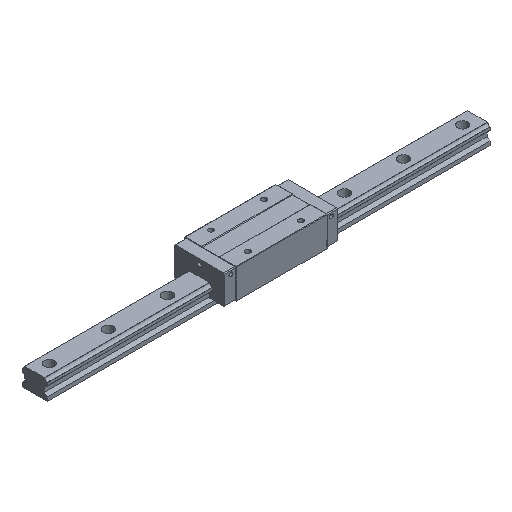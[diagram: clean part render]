
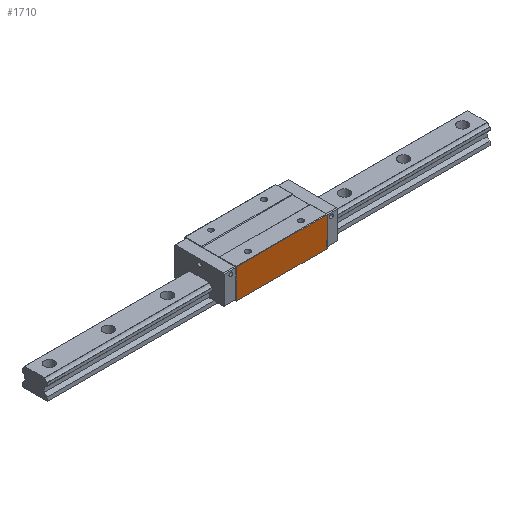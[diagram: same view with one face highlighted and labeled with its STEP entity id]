
A CAD part, isometric view. The second image highlights one B-rep face of the part: STEP entity #1710.
In plain terms, the highlighted planar face has unit normal (0, -1, 0).
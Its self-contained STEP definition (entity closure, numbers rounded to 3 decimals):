
#95 = LINE ( 'NONE', #4801, #1401 ) ;
#149 = CARTESIAN_POINT ( 'NONE',  ( 61.5, -35., 7.5 ) ) ;
#497 = ORIENTED_EDGE ( 'NONE', *, *, #5022, .T. ) ;
#533 = CARTESIAN_POINT ( 'NONE',  ( 61.5, -35., 48. ) ) ;
#933 = DIRECTION ( 'NONE',  ( 0., 0., -1. ) ) ;
#1092 = VECTOR ( 'NONE', #4604, 1000. ) ;
#1160 = DIRECTION ( 'NONE',  ( 1., 0., 0. ) ) ;
#1232 = ORIENTED_EDGE ( 'NONE', *, *, #3313, .F. ) ;
#1401 = VECTOR ( 'NONE', #3591, 1000. ) ;
#1478 = LINE ( 'NONE', #3209, #5104 ) ;
#1670 = VERTEX_POINT ( 'NONE', #5440 ) ;
#1710 = ADVANCED_FACE ( 'NONE', ( #2900 ), #2813, .F. ) ;
#1902 = ORIENTED_EDGE ( 'NONE', *, *, #2328, .F. ) ;
#2328 = EDGE_CURVE ( 'NONE', #1670, #3849, #4399, .T. ) ;
#2676 = ORIENTED_EDGE ( 'NONE', *, *, #4227, .T. ) ;
#2813 = PLANE ( 'NONE',  #4496 ) ;
#2815 = LINE ( 'NONE', #5447, #1092 ) ;
#2900 = FACE_OUTER_BOUND ( 'NONE', #5066, .T. ) ;
#2945 = CARTESIAN_POINT ( 'NONE',  ( -61.5, -35., 7.5 ) ) ;
#3209 = CARTESIAN_POINT ( 'NONE',  ( 61.5, -35., 47.5 ) ) ;
#3313 = EDGE_CURVE ( 'NONE', #3849, #4879, #2815, .T. ) ;
#3321 = DIRECTION ( 'NONE',  ( 0., 1., 0. ) ) ;
#3492 = VERTEX_POINT ( 'NONE', #5485 ) ;
#3545 = VECTOR ( 'NONE', #933, 1000. ) ;
#3591 = DIRECTION ( 'NONE',  ( 0., 0., -1. ) ) ;
#3849 = VERTEX_POINT ( 'NONE', #149 ) ;
#4227 = EDGE_CURVE ( 'NONE', #1670, #3492, #1478, .T. ) ;
#4399 = LINE ( 'NONE', #533, #3545 ) ;
#4496 = AXIS2_PLACEMENT_3D ( 'NONE', #5416, #3321, #1160 ) ;
#4604 = DIRECTION ( 'NONE',  ( -1., 0., 0. ) ) ;
#4801 = CARTESIAN_POINT ( 'NONE',  ( -61.5, -35., 48. ) ) ;
#4879 = VERTEX_POINT ( 'NONE', #2945 ) ;
#4905 = DIRECTION ( 'NONE',  ( -1., 0., 0. ) ) ;
#5022 = EDGE_CURVE ( 'NONE', #3492, #4879, #95, .T. ) ;
#5066 = EDGE_LOOP ( 'NONE', ( #1902, #2676, #497, #1232 ) ) ;
#5104 = VECTOR ( 'NONE', #4905, 1000. ) ;
#5416 = CARTESIAN_POINT ( 'NONE',  ( 61.5, -35., 48. ) ) ;
#5440 = CARTESIAN_POINT ( 'NONE',  ( 61.5, -35., 47.5 ) ) ;
#5447 = CARTESIAN_POINT ( 'NONE',  ( 61.5, -35., 7.5 ) ) ;
#5485 = CARTESIAN_POINT ( 'NONE',  ( -61.5, -35., 47.5 ) ) ;
